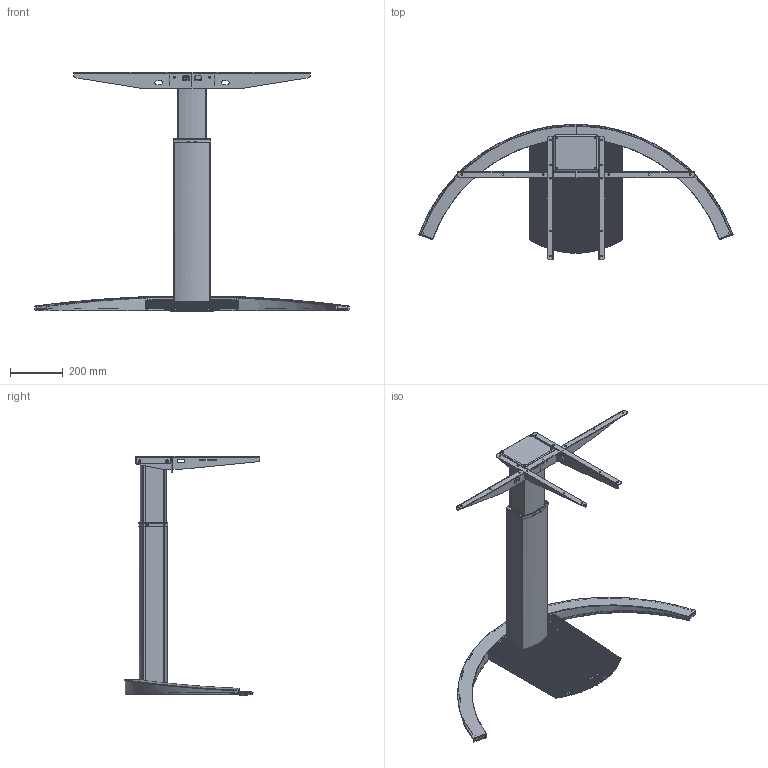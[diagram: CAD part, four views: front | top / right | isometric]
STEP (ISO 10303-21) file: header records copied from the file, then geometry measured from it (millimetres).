
FILE_DESCRIPTION (( 'STEP AP203' ), '1' );
FILE_NAME ('Tech-draw_501-19_XX120.STEP', '2019-11-11T09:39:39', ( '' ), ( '' ), 'SwSTEP 2.0', 'SolidWorks 2018', '' );
FILE_SCHEMA (( 'CONFIG_CONTROL_DESIGN' ));
Length unit declared in the file: millimetre
Products named in the file (46): 312980; 107860_silver; Tech-draw_501-19_XX120; 320490; 108740; 311890; 108720; 107880_Shell view; 350240; 311690_Shell view; 313040; 311680; 311700_Shell view; 313050; 312790; 107870_silver; 312940; 108730_silver; 320530; 311610; 312970; 111500_silver; 350250; 312670; 149510_501-19 XS120; 320500; 312140; 114960_Shell view; 311670; 313290; 313020; 313030; 114950_Shell view; 312960; 311630_shell view1; 313060; 306980_black; 313010; 313000; 304650_black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
Assembly tree (65 placements, depth 6):
  Tech-draw_501-19_XX120
    149510_501-19 XS120
      111500_silver
        107870_silver
          107860_silver
            311670
            311680
            311610
            350250
        111360_shell view
          107880_Shell view
            311690_Shell view
            311700_Shell view
            311630_shell view1
          312140
          350240
        306980_black  x4
      108900_silver
        108730_silver
          312940
          312950
          312960
          312970
          312980
          312990
          313000  x2
          313010
          313020
          108720
            313030
            313040
          108740
            313050
            313060
        312670
        303470  x4
        313290  x3
        312790  x2
      114960_Shell view
        320500
        311890
        320530
      114950_Shell view
        320490
        311900
        320530
      304650_black  x10
Bounding box: 1196.09 x 517.17 x 911.5 mm (x, y, z)
Volume: 2965244.1 mm3; surface area: 2925633.4 mm2
Topology: 53 solids, 53 shells, 2153 faces, 5643 edges, 3666 vertices
Faces by surface type: plane 1351, cylinder 471, bspline 257, torus 50, cone 16, sphere 8
Full cylindrical faces by diameter (mm): 2 x2, 3.3 x2, 4 x22, 4.3 x2, 4.5 x6, 5 x27, 6 x86, 6.5 x2, 6.8 x6, 10 x4, 25 x3, 37.8 x1, 45 x1
Entity records: 73953 total; most frequent: CARTESIAN_POINT 23209, ORIENTED_EDGE 9776, DIRECTION 8446, EDGE_CURVE 4888, LINE 3324, VECTOR 3324, VERTEX_POINT 3229, AXIS2_PLACEMENT_3D 2561
